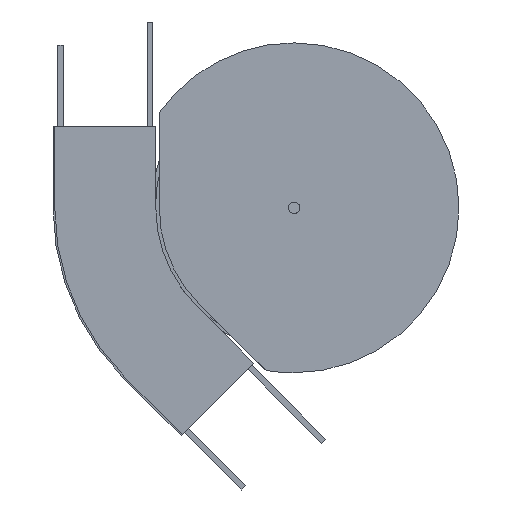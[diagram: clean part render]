
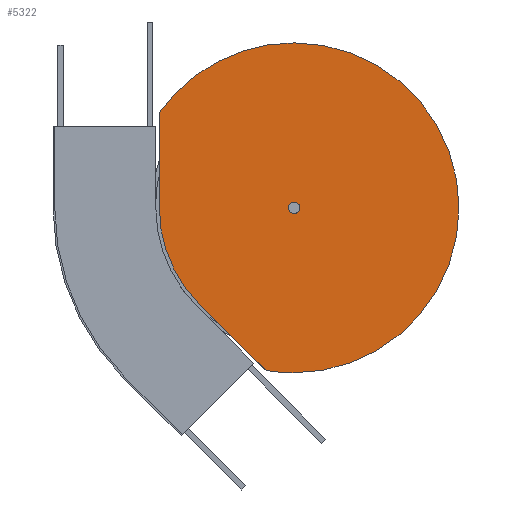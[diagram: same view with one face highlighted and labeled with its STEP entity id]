
A CAD part, front view. The second image highlights one B-rep face of the part: STEP entity #5322.
In plain terms, the highlighted planar face has unit normal (0, -1, 0).
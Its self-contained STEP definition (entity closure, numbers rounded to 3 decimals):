
#30 = LINE ( 'NONE', #2087, #34 ) ;
#34 = VECTOR ( 'NONE', #2088, 1000. ) ;
#102 = CARTESIAN_POINT ( 'NONE',  ( 162.5, -38.75, -75. ) ) ;
#103 = CARTESIAN_POINT ( 'NONE',  ( 46.5, -38.75, 11.902 ) ) ;
#141 = CARTESIAN_POINT ( 'NONE',  ( 80.476, -38.75, -152.024 ) ) ;
#165 = CARTESIAN_POINT ( 'NONE',  ( 162.5, -38.75, -212. ) ) ;
#174 = CARTESIAN_POINT ( 'NONE',  ( 162.5, -38.75, 72. ) ) ;
#183 = CARTESIAN_POINT ( 'NONE',  ( 162.5, -38.75, -65. ) ) ;
#190 = CARTESIAN_POINT ( 'NONE',  ( 138.389, -38.75, -209.938 ) ) ;
#191 = CARTESIAN_POINT ( 'NONE',  ( 46.5, -38.75, -70. ) ) ;
#464 = CARTESIAN_POINT ( 'NONE',  ( 162.5, -38.75, -70. ) ) ;
#465 = DIRECTION ( 'NONE',  ( 0., 1., 0. ) ) ;
#466 = DIRECTION ( 'NONE',  ( 0., 0., 1. ) ) ;
#556 = DIRECTION ( 'NONE',  ( -0.707, 0., 0.707 ) ) ;
#562 = CARTESIAN_POINT ( 'NONE',  ( 80.476, -38.75, -152.024 ) ) ;
#621 = CARTESIAN_POINT ( 'NONE',  ( 162.5, -38.75, -70. ) ) ;
#622 = DIRECTION ( 'NONE',  ( 0., 1., 0. ) ) ;
#623 = DIRECTION ( 'NONE',  ( 0., 0., 1. ) ) ;
#629 = CARTESIAN_POINT ( 'NONE',  ( 162.5, -38.75, -70. ) ) ;
#630 = DIRECTION ( 'NONE',  ( 0., 1., 0. ) ) ;
#631 = DIRECTION ( 'NONE',  ( 0., 0., 1. ) ) ;
#654 = CARTESIAN_POINT ( 'NONE',  ( 162.5, -38.75, -70. ) ) ;
#655 = DIRECTION ( 'NONE',  ( 0., -1., 0. ) ) ;
#656 = DIRECTION ( 'NONE',  ( 0., 0., 1. ) ) ;
#783 = CARTESIAN_POINT ( 'NONE',  ( 162.5, -38.75, -70. ) ) ;
#784 = DIRECTION ( 'NONE',  ( 0., -1., 0. ) ) ;
#785 = DIRECTION ( 'NONE',  ( 0., 0., -1. ) ) ;
#831 = CARTESIAN_POINT ( 'NONE',  ( 162.5, -38.75, -70. ) ) ;
#832 = DIRECTION ( 'NONE',  ( 0., -1., 0. ) ) ;
#833 = DIRECTION ( 'NONE',  ( 0., 0., 1. ) ) ;
#1583 = DIRECTION ( 'NONE',  ( 0., 1., 0. ) ) ;
#1586 = CARTESIAN_POINT ( 'NONE',  ( 46.5, -38.75, -70. ) ) ;
#1588 = PLANE ( 'NONE',  #5735 ) ;
#1590 = DIRECTION ( 'NONE',  ( 0., 0., -1. ) ) ;
#2087 = CARTESIAN_POINT ( 'NONE',  ( 46.5, -38.75, -70. ) ) ;
#2088 = DIRECTION ( 'NONE',  ( 0., 0., 1. ) ) ;
#2383 = VERTEX_POINT ( 'NONE', #103 ) ;
#2390 = EDGE_LOOP ( 'NONE', ( #4543, #3914 ) ) ;
#2430 = VERTEX_POINT ( 'NONE', #102 ) ;
#2543 = VERTEX_POINT ( 'NONE', #141 ) ;
#2699 = VERTEX_POINT ( 'NONE', #165 ) ;
#2704 = VERTEX_POINT ( 'NONE', #174 ) ;
#2713 = VERTEX_POINT ( 'NONE', #183 ) ;
#2720 = VERTEX_POINT ( 'NONE', #190 ) ;
#2721 = VERTEX_POINT ( 'NONE', #191 ) ;
#2779 = EDGE_LOOP ( 'NONE', ( #4042, #4665, #4117, #4552, #4234, #4661 ) ) ;
#3399 = FACE_BOUND ( 'NONE', #2390, .T. ) ;
#3520 = FACE_OUTER_BOUND ( 'NONE', #2779, .T. ) ;
#3732 = LINE ( 'NONE', #562, #4474 ) ;
#3914 = ORIENTED_EDGE ( 'NONE', *, *, #4906, .F. ) ;
#4042 = ORIENTED_EDGE ( 'NONE', *, *, #4963, .T. ) ;
#4093 = CIRCLE ( 'NONE', #5569, 5. ) ;
#4117 = ORIENTED_EDGE ( 'NONE', *, *, #4823, .F. ) ;
#4163 = CIRCLE ( 'NONE', #5593, 5. ) ;
#4234 = ORIENTED_EDGE ( 'NONE', *, *, #4892, .F. ) ;
#4444 = CIRCLE ( 'NONE', #5563, 142. ) ;
#4474 = VECTOR ( 'NONE', #556, 1000. ) ;
#4543 = ORIENTED_EDGE ( 'NONE', *, *, #4982, .F. ) ;
#4544 = CIRCLE ( 'NONE', #5544, 142. ) ;
#4552 = ORIENTED_EDGE ( 'NONE', *, *, #4895, .F. ) ;
#4572 = CIRCLE ( 'NONE', #5564, 142. ) ;
#4661 = ORIENTED_EDGE ( 'NONE', *, *, #5508, .F. ) ;
#4665 = ORIENTED_EDGE ( 'NONE', *, *, #4869, .F. ) ;
#4767 = CIRCLE ( 'NONE', #5584, 116. ) ;
#4823 = EDGE_CURVE ( 'NONE', #2699, #2720, #4544, .T. ) ;
#4869 = EDGE_CURVE ( 'NONE', #2720, #2543, #3732, .T. ) ;
#4892 = EDGE_CURVE ( 'NONE', #2383, #2704, #4444, .T. ) ;
#4895 = EDGE_CURVE ( 'NONE', #2704, #2699, #4572, .T. ) ;
#4906 = EDGE_CURVE ( 'NONE', #2430, #2713, #4093, .T. ) ;
#4963 = EDGE_CURVE ( 'NONE', #2721, #2543, #4767, .T. ) ;
#4982 = EDGE_CURVE ( 'NONE', #2713, #2430, #4163, .T. ) ;
#5322 = ADVANCED_FACE ( 'NONE', ( #3399, #3520 ), #1588, .F. ) ;
#5508 = EDGE_CURVE ( 'NONE', #2721, #2383, #30, .T. ) ;
#5544 = AXIS2_PLACEMENT_3D ( 'NONE', #464, #465, #466 ) ;
#5563 = AXIS2_PLACEMENT_3D ( 'NONE', #621, #622, #623 ) ;
#5564 = AXIS2_PLACEMENT_3D ( 'NONE', #629, #630, #631 ) ;
#5569 = AXIS2_PLACEMENT_3D ( 'NONE', #654, #655, #656 ) ;
#5584 = AXIS2_PLACEMENT_3D ( 'NONE', #783, #784, #785 ) ;
#5593 = AXIS2_PLACEMENT_3D ( 'NONE', #831, #832, #833 ) ;
#5735 = AXIS2_PLACEMENT_3D ( 'NONE', #1586, #1583, #1590 ) ;
